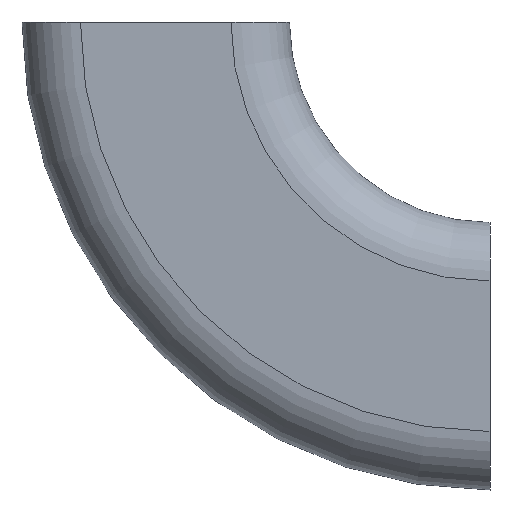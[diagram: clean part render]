
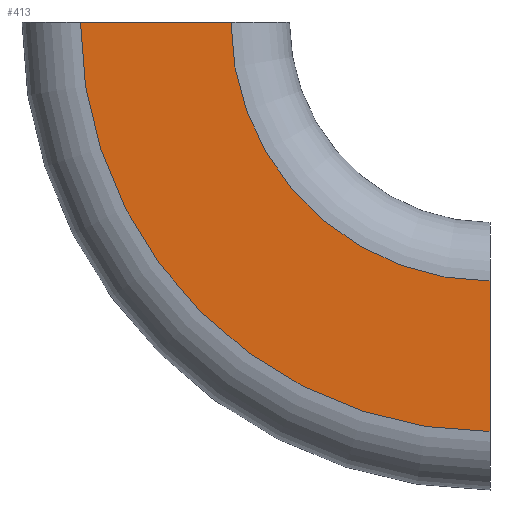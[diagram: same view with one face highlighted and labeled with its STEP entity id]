
A CAD part, left-side view. The second image highlights one B-rep face of the part: STEP entity #413.
In plain terms, the highlighted planar face has unit normal (-1, 0, 0).
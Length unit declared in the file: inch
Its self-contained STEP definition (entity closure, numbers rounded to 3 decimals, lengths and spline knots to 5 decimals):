
#345=CARTESIAN_POINT('',(-0.5,-1.25,-1.53125));
#346=VERTEX_POINT('',#345);
#354=CARTESIAN_POINT('',(-0.5,0.28125,0.0));
#355=VERTEX_POINT('',#354);
#356=CARTESIAN_POINT('',(-0.5,-1.25,0.0));
#357=DIRECTION('',(-1.0,0.0,0.0));
#358=DIRECTION('',(0.0,1.0,0.0));
#359=AXIS2_PLACEMENT_3D('',#356,#357,#358);
#360=CIRCLE('',#359,1.53125);
#361=EDGE_CURVE('',#355,#346,#360,.T.);
#382=CARTESIAN_POINT('',(-0.5,0.,0.0));
#383=DIRECTION('',(-1.0,0.0,0.0));
#384=DIRECTION('',(0.0,0.0,1.0));
#385=AXIS2_PLACEMENT_3D('',#382,#383,#384);
#386=PLANE('',#385);
#387=CARTESIAN_POINT('',(-0.5,-1.25,-0.96875));
#388=VERTEX_POINT('',#387);
#389=CARTESIAN_POINT('',(-0.5,-1.25,-1.53125));
#390=DIRECTION('',(0.0,0.0,1.0));
#391=VECTOR('',#390,0.5625);
#392=LINE('',#389,#391);
#393=EDGE_CURVE('',#346,#388,#392,.T.);
#394=ORIENTED_EDGE('',*,*,#393,.T.);
#395=CARTESIAN_POINT('',(-0.5,-0.28125,0.0));
#396=VERTEX_POINT('',#395);
#397=CARTESIAN_POINT('',(-0.5,-1.25,0.0));
#398=DIRECTION('',(-1.0,0.0,0.0));
#399=DIRECTION('',(0.0,1.0,0.0));
#400=AXIS2_PLACEMENT_3D('',#397,#398,#399);
#401=CIRCLE('',#400,0.96875);
#402=EDGE_CURVE('',#396,#388,#401,.T.);
#403=ORIENTED_EDGE('',*,*,#402,.F.);
#404=CARTESIAN_POINT('',(-0.5,0.28125,0.0));
#405=DIRECTION('',(0.0,-1.0,0.0));
#406=VECTOR('',#405,0.5625);
#407=LINE('',#404,#406);
#408=EDGE_CURVE('',#355,#396,#407,.T.);
#409=ORIENTED_EDGE('',*,*,#408,.F.);
#410=ORIENTED_EDGE('',*,*,#361,.T.);
#411=EDGE_LOOP('',(#394,#403,#409,#410));
#412=FACE_OUTER_BOUND('',#411,.T.);
#413=ADVANCED_FACE('',(#412),#386,.T.);
